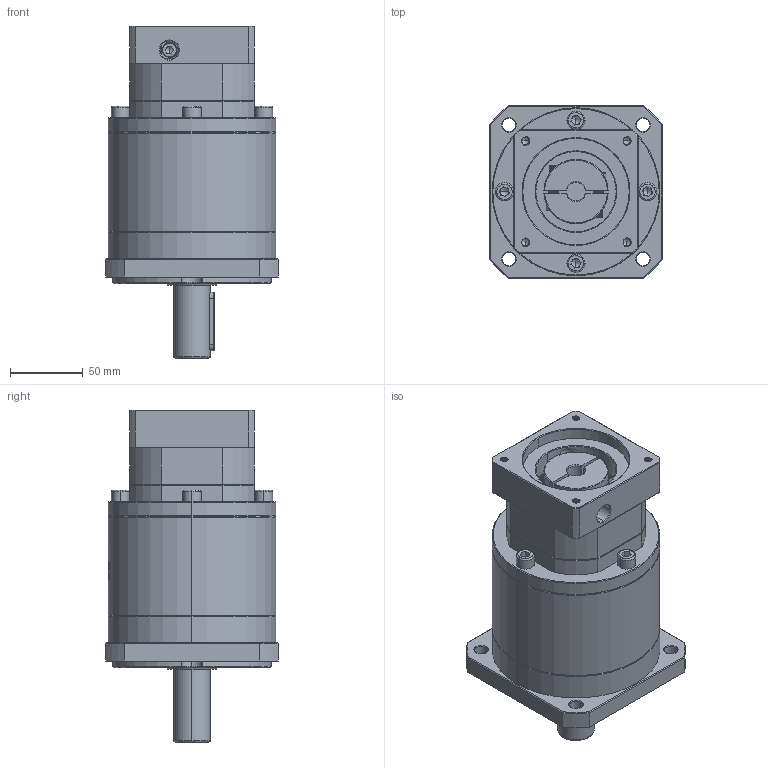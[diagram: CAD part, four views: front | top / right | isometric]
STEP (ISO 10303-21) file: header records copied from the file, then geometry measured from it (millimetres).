
FILE_DESCRIPTION (( 'STEP AP214' ), '1' );
FILE_NAME ('ZF120A-D25-L3-P2-12.7-73-69.6X69.6-M6.step', '2023-08-27T05:57:57', ( '' ), ( '' ), 'SwSTEP 2.0', 'SolidWorks 2016', '' );
FILE_SCHEMA (( 'AUTOMOTIVE_DESIGN' ));
Length unit declared in the file: millimetre
Products named in the file (1): ZF120A-D25-L3-P2-12.7-73-69.6X69.6-M6
Bounding box: 118 x 118 x 227.5 mm (x, y, z)
Volume: 1572076.7 mm3; surface area: 138202.5 mm2
Topology: 5 solids, 6 shells, 2209 faces, 5878 edges, 3768 vertices
Faces by surface type: plane 1060, bspline 419, cylinder 402, cone 313, torus 15
Entity records: 120986 total; most frequent: CARTESIAN_POINT 47175, ORIENTED_EDGE 11696, DIRECTION 8435, EDGE_CURVE 5848, VERTEX_POINT 3768, LINE 3099, VECTOR 3099, AXIS2_PLACEMENT_3D 2668
